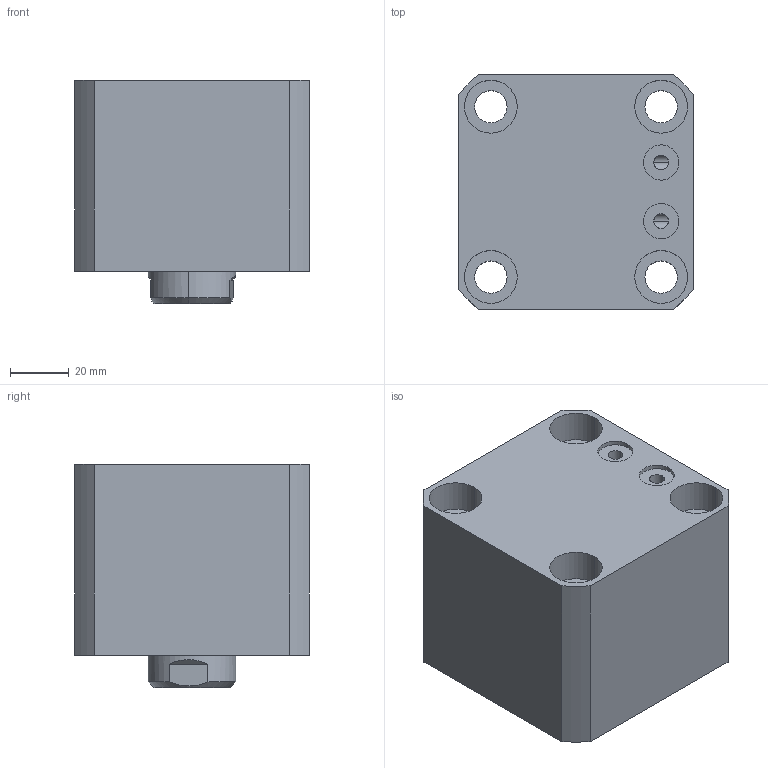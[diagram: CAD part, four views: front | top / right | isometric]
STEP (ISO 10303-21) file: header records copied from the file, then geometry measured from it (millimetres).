
FILE_DESCRIPTION (( 'STEP AP203' ), '1' );
FILE_NAME ('CHTB-SDMB50-5N.STEP', '2018-05-19T03:14:18', ( '' ), ( '' ), 'SwSTEP 2.0', 'SolidWorks 2015', '' );
FILE_SCHEMA (( 'CONFIG_CONTROL_DESIGN' ));
Length unit declared in the file: millimetre
Products named in the file (5): 掛极SDMB50-5N; M6; 活塞杆SDMB50-5N; CHTB-SDMB50-5N; CHTM-SDMA50QG
Assembly tree (5 placements, depth 2):
  CHTB-SDMB50-5N
    掛极SDMB50-5N
    活塞杆SDMB50-5N
    CHTM-SDMA50QG
    M6  x2
Bounding box: 80 x 80 x 76 mm (x, y, z)
Volume: 358274.2 mm3; surface area: 82872.7 mm2
Topology: 5 solids, 5 shells, 263 faces, 693 edges, 458 vertices
Faces by surface type: cylinder 135, plane 55, cone 31, bspline 26, torus 16
Entity records: 13963 total; most frequent: CARTESIAN_POINT 8102, ORIENTED_EDGE 1188, DIRECTION 1016, EDGE_CURVE 594, AXIS2_PLACEMENT_3D 416, VERTEX_POINT 397, EDGE_LOOP 269, ADVANCED_FACE 228
